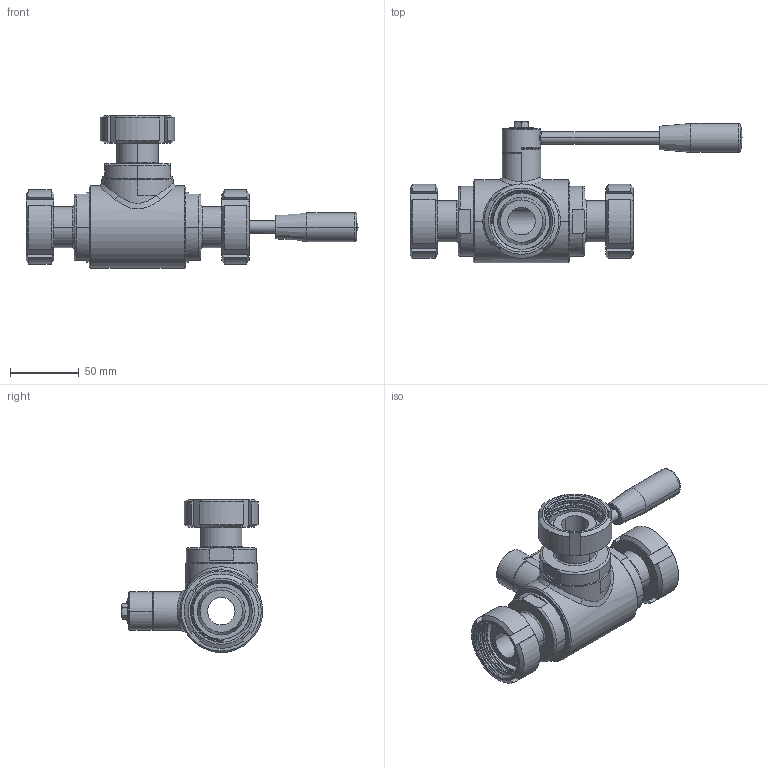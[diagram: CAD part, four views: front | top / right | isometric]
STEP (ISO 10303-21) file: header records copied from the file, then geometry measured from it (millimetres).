
FILE_DESCRIPTION((''),'2;1');
FILE_NAME('PROVA1_ASM','2025-04-16T09:29:15',('tecnico2'),('CDM Tecnoconsulting'),'CREO PARAMETRIC BY PTC INC, 2024063','CREO PARAMETRIC BY PTC INC, 2024063','');
FILE_SCHEMA(('CONFIG_CONTROL_DESIGN','SHAPE_APPEARANCE_LAYERS_GROUPS'));
Length unit declared in the file: millimetre
Products named in the file (4): 30012762010_SW0001; 92530076200; 93010006260; PROVA1_ASM
Assembly tree (3 placements, depth 2):
  PROVA1_ASM
    30012762010_SW0001
    92530076200
    93010006260
Bounding box: 241 x 102.5 x 111 mm (x, y, z)
Volume: 349817.4 mm3; surface area: 109649.9 mm2
Topology: 6 solids, 6 shells, 1090 faces, 2851 edges, 1810 vertices
Faces by surface type: plane 440, cylinder 218, cone 160, bspline 112, extrusion 104, torus 52, sphere 4
Entity records: 76727 total; most frequent: CARTESIAN_POINT 43582, ORIENTED_EDGE 5658, DIRECTION 4540, EDGE_CURVE 2829, PRESENTATION_STYLE_ASSIGNMENT 2517, STYLED_ITEM 2474, CURVE_STYLE 2470, VERTEX_POINT 1810
